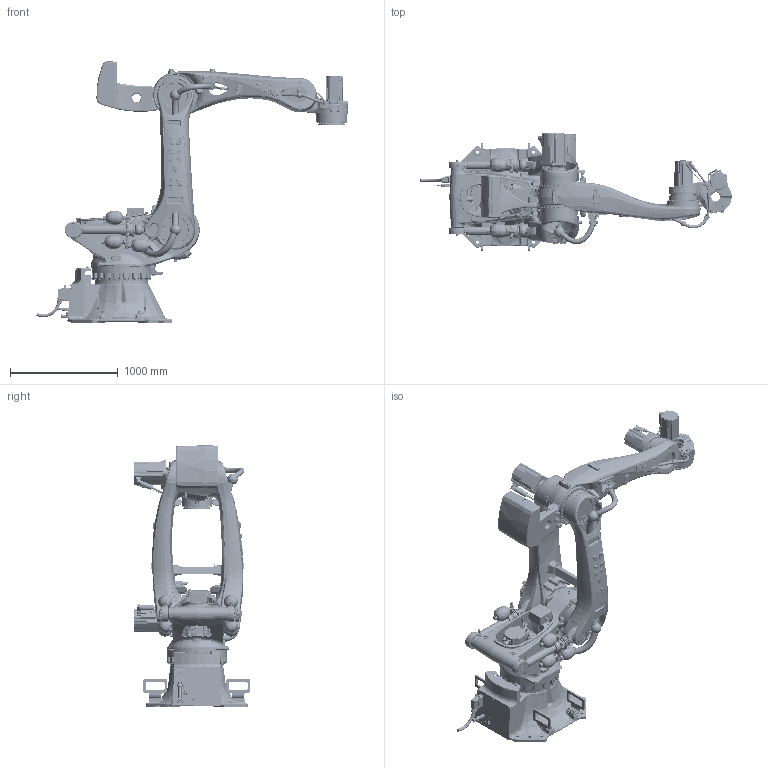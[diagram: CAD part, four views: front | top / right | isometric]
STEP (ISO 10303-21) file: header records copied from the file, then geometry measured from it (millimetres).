
FILE_DESCRIPTION(/* description */ (''),/* implementation_level */ '2;1');
FILE_NAME(/* name */ 'KR_800_R3200-2_PA_V01.stp',/* time_stamp */ '2025-02-04T11:08:22+01:00',/* author */ (''),/* organization */ (''),/* preprocessor_version */ 'ST-DEVELOPER v19.4',/* originating_system */ 'SIEMENS PLM Software NX2212.9140',/* authorisation */ '');
FILE_SCHEMA (('AUTOMOTIVE_DESIGN { 1 0 10303 214 3 1 1 1 }'));
Products named in the file (1): 394.092-10.500.00-00umm000~01_objects
Bounding box: 2889.78 x 1084.99 x 2425.56 mm (x, y, z)
Volume: 451487813.9 mm3; surface area: 19431682.8 mm2
Topology: 29 solids, 54 shells, 16037 faces, 38950 edges, 23816 vertices
Faces by surface type: bspline 5165, plane 4461, cylinder 3381, torus 1730, cone 782, sphere 301, extrusion 217
Full cylindrical faces by diameter (mm): 2 x3, 2.3 x2, 2.6 x2, 3.2 x2, 3.5 x2, 4 x3, 4.5 x5, 4.8 x2, 5 x5, 5.3 x4, 5.45 x2, 5.5 x21, 6 x15, 6.4 x1, 6.7 x12, 6.8 x4, 7 x18, 7.5 x3, 8 x67, 8.2 x1, 8.4 x17, 8.5 x15, 8.7 x1, 8.8 x2, 10 x58, 10.3 x1, 10.4 x1, 11 x2, 11.05 x2, 11.8 x3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
Entity records: 760610 total; most frequent: CARTESIAN_POINT 392479, ORIENTED_EDGE 71300, DIRECTION 57095, EDGE_CURVE 35650, AXIS2_PLACEMENT_3D 23975, VERTEX_POINT 22820, EDGE_LOOP 19416, ADVANCED_FACE 16032
